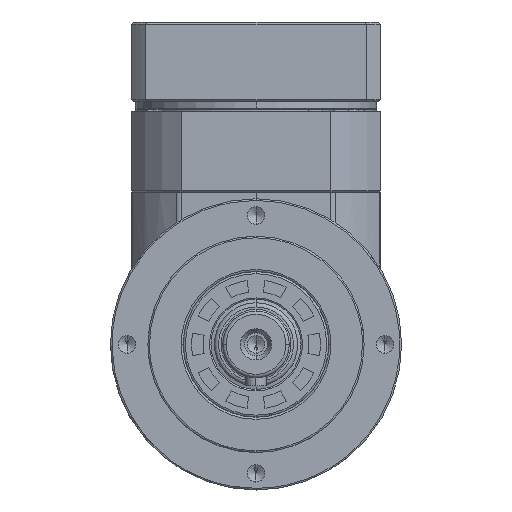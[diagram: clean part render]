
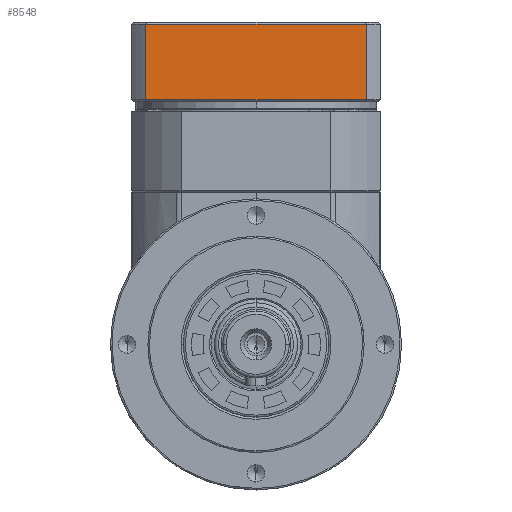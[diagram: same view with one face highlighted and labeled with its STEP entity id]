
A CAD part, left-side view. The second image highlights one B-rep face of the part: STEP entity #8548.
In plain terms, the highlighted planar face has unit normal (-1, 0, 0).
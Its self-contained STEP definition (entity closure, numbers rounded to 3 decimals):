
#1735 = DIRECTION ( 'NONE',  ( 0., 1., 0. ) ) ;
#3596 = DIRECTION ( 'NONE',  ( 0., 0., 1. ) ) ;
#4181 = CARTESIAN_POINT ( 'NONE',  ( -66.465, -53.377, 129.831 ) ) ;
#4872 = EDGE_CURVE ( 'NONE', #23510, #56029, #6444, .T. ) ;
#5815 = VECTOR ( 'NONE', #1735, 1000. ) ;
#6444 = LINE ( 'NONE', #19422, #5815 ) ;
#8463 = CARTESIAN_POINT ( 'NONE',  ( -66.465, -53.377, 111.631 ) ) ;
#8548 = ADVANCED_FACE ( 'NONE', ( #17445 ), #26259, .T. ) ;
#15463 = ORIENTED_EDGE ( 'NONE', *, *, #56517, .T. ) ;
#17445 = FACE_OUTER_BOUND ( 'NONE', #32276, .T. ) ;
#18131 = EDGE_CURVE ( 'NONE', #52379, #56029, #57179, .T. ) ;
#18574 = VECTOR ( 'NONE', #26297, 1000. ) ;
#19422 = CARTESIAN_POINT ( 'NONE',  ( -66.465, -0.462, 129.831 ) ) ;
#20216 = ORIENTED_EDGE ( 'NONE', *, *, #21069, .T. ) ;
#20703 = VECTOR ( 'NONE', #57274, 1000. ) ;
#21069 = EDGE_CURVE ( 'NONE', #44915, #23510, #29649, .T. ) ;
#21905 = CARTESIAN_POINT ( 'NONE',  ( -66.465, -0.462, 111.631 ) ) ;
#23510 = VERTEX_POINT ( 'NONE', #4181 ) ;
#26010 = CARTESIAN_POINT ( 'NONE',  ( -66.465, -0.462, 105.331 ) ) ;
#26259 = PLANE ( 'NONE',  #29263 ) ;
#26297 = DIRECTION ( 'NONE',  ( 0., 0., 1. ) ) ;
#26757 = DIRECTION ( 'NONE',  ( 0., -1., 0. ) ) ;
#29035 = CARTESIAN_POINT ( 'NONE',  ( -66.465, -0.462, 129.831 ) ) ;
#29263 = AXIS2_PLACEMENT_3D ( 'NONE', #34194, #43878, #3596 ) ;
#29649 = LINE ( 'NONE', #56095, #20703 ) ;
#29753 = ORIENTED_EDGE ( 'NONE', *, *, #18131, .F. ) ;
#30896 = ORIENTED_EDGE ( 'NONE', *, *, #4872, .T. ) ;
#32276 = EDGE_LOOP ( 'NONE', ( #30896, #29753, #15463, #20216 ) ) ;
#33560 = VECTOR ( 'NONE', #26757, 1000. ) ;
#34194 = CARTESIAN_POINT ( 'NONE',  ( -66.465, -0.462, 54.331 ) ) ;
#36706 = CARTESIAN_POINT ( 'NONE',  ( -66.465, -26.92, 111.631 ) ) ;
#40250 = LINE ( 'NONE', #36706, #33560 ) ;
#43878 = DIRECTION ( 'NONE',  ( -1., 0., 0. ) ) ;
#44915 = VERTEX_POINT ( 'NONE', #8463 ) ;
#52379 = VERTEX_POINT ( 'NONE', #21905 ) ;
#56029 = VERTEX_POINT ( 'NONE', #29035 ) ;
#56095 = CARTESIAN_POINT ( 'NONE',  ( -66.465, -53.377, 54.331 ) ) ;
#56517 = EDGE_CURVE ( 'NONE', #52379, #44915, #40250, .T. ) ;
#57179 = LINE ( 'NONE', #26010, #18574 ) ;
#57274 = DIRECTION ( 'NONE',  ( 0., 0., 1. ) ) ;
